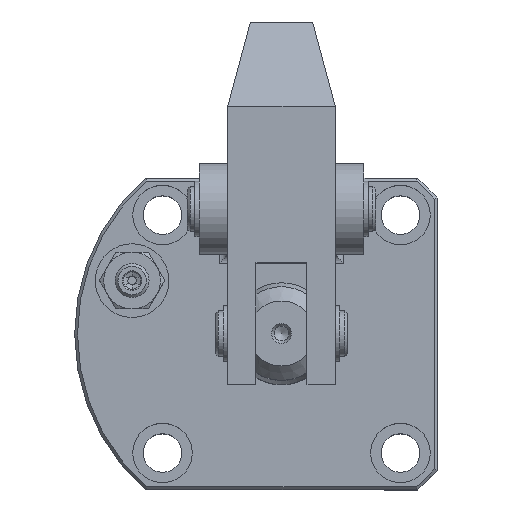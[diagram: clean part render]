
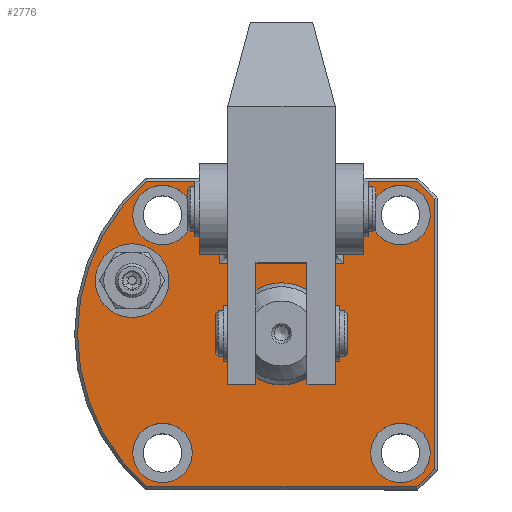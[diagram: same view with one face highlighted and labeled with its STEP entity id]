
A CAD part, top view. The second image highlights one B-rep face of the part: STEP entity #2776.
In plain terms, the highlighted planar face has unit normal (0, 0, 1).
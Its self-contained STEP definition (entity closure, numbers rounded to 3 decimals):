
#134=CIRCLE('',#3061,36.);
#135=CIRCLE('',#3062,36.);
#136=CIRCLE('',#3063,36.);
#137=CIRCLE('',#3064,6.5);
#138=CIRCLE('',#3065,5.25);
#139=CIRCLE('',#3066,5.25);
#140=CIRCLE('',#3067,9.);
#141=CIRCLE('',#3068,5.25);
#142=CIRCLE('',#3069,5.25);
#355=PLANE('',#3060);
#436=LINE('',#4263,#574);
#468=LINE('',#4337,#606);
#469=LINE('',#4340,#607);
#470=LINE('',#4342,#608);
#471=LINE('',#4344,#609);
#472=LINE('',#4347,#610);
#473=LINE('',#4351,#611);
#574=VECTOR('',#3415,1000.);
#606=VECTOR('',#3471,1000.);
#607=VECTOR('',#3472,1000.);
#608=VECTOR('',#3473,1000.);
#609=VECTOR('',#3474,1000.);
#610=VECTOR('',#3477,1000.);
#611=VECTOR('',#3480,1000.);
#770=ORIENTED_EDGE('',*,*,#1479,.T.);
#771=ORIENTED_EDGE('',*,*,#1480,.T.);
#772=ORIENTED_EDGE('',*,*,#1481,.T.);
#773=ORIENTED_EDGE('',*,*,#1482,.T.);
#774=ORIENTED_EDGE('',*,*,#1444,.T.);
#775=ORIENTED_EDGE('',*,*,#1483,.T.);
#776=ORIENTED_EDGE('',*,*,#1484,.T.);
#777=ORIENTED_EDGE('',*,*,#1485,.T.);
#778=ORIENTED_EDGE('',*,*,#1486,.T.);
#779=ORIENTED_EDGE('',*,*,#1487,.T.);
#780=ORIENTED_EDGE('',*,*,#1488,.F.);
#781=ORIENTED_EDGE('',*,*,#1489,.T.);
#782=ORIENTED_EDGE('',*,*,#1490,.T.);
#783=ORIENTED_EDGE('',*,*,#1491,.T.);
#784=ORIENTED_EDGE('',*,*,#1492,.T.);
#785=ORIENTED_EDGE('',*,*,#1493,.T.);
#1444=EDGE_CURVE('',#1808,#1809,#436,.T.);
#1479=EDGE_CURVE('',#1834,#1835,#468,.T.);
#1480=EDGE_CURVE('',#1835,#1836,#469,.F.);
#1481=EDGE_CURVE('',#1836,#1837,#470,.F.);
#1482=EDGE_CURVE('',#1837,#1808,#471,.F.);
#1483=EDGE_CURVE('',#1809,#1838,#134,.T.);
#1484=EDGE_CURVE('',#1838,#1839,#472,.T.);
#1485=EDGE_CURVE('',#1839,#1840,#135,.T.);
#1486=EDGE_CURVE('',#1840,#1841,#473,.T.);
#1487=EDGE_CURVE('',#1841,#1834,#136,.T.);
#1488=EDGE_CURVE('',#1842,#1842,#137,.T.);
#1489=EDGE_CURVE('',#1843,#1843,#138,.T.);
#1490=EDGE_CURVE('',#1844,#1844,#139,.T.);
#1491=EDGE_CURVE('',#1845,#1845,#140,.T.);
#1492=EDGE_CURVE('',#1846,#1846,#141,.T.);
#1493=EDGE_CURVE('',#1847,#1847,#142,.T.);
#1808=VERTEX_POINT('',#4264);
#1809=VERTEX_POINT('',#4265);
#1834=VERTEX_POINT('',#4338);
#1835=VERTEX_POINT('',#4339);
#1836=VERTEX_POINT('',#4341);
#1837=VERTEX_POINT('',#4343);
#1838=VERTEX_POINT('',#4346);
#1839=VERTEX_POINT('',#4348);
#1840=VERTEX_POINT('',#4350);
#1841=VERTEX_POINT('',#4352);
#1842=VERTEX_POINT('',#4355);
#1843=VERTEX_POINT('',#4357);
#1844=VERTEX_POINT('',#4359);
#1845=VERTEX_POINT('',#4361);
#1846=VERTEX_POINT('',#4363);
#1847=VERTEX_POINT('',#4365);
#2096=EDGE_LOOP('',(#770,#771,#772,#773,#774,#775,#776,#777,#778,#779));
#2097=EDGE_LOOP('',(#780));
#2098=EDGE_LOOP('',(#781));
#2099=EDGE_LOOP('',(#782));
#2100=EDGE_LOOP('',(#783));
#2101=EDGE_LOOP('',(#784));
#2102=EDGE_LOOP('',(#785));
#2404=FACE_BOUND('',#2096,.T.);
#2405=FACE_BOUND('',#2097,.T.);
#2406=FACE_BOUND('',#2098,.T.);
#2407=FACE_BOUND('',#2099,.T.);
#2408=FACE_BOUND('',#2100,.T.);
#2409=FACE_BOUND('',#2101,.T.);
#2410=FACE_BOUND('',#2102,.T.);
#2776=ADVANCED_FACE('',(#2404,#2405,#2406,#2407,#2408,#2409,#2410),#355,
 .T.);
#3060=AXIS2_PLACEMENT_3D('',#4336,#3469,#3470);
#3061=AXIS2_PLACEMENT_3D('',#4345,#3475,#3476);
#3062=AXIS2_PLACEMENT_3D('',#4349,#3478,#3479);
#3063=AXIS2_PLACEMENT_3D('',#4353,#3481,#3482);
#3064=AXIS2_PLACEMENT_3D('',#4354,#3483,#3484);
#3065=AXIS2_PLACEMENT_3D('',#4356,#3485,#3486);
#3066=AXIS2_PLACEMENT_3D('',#4358,#3487,#3488);
#3067=AXIS2_PLACEMENT_3D('',#4360,#3489,#3490);
#3068=AXIS2_PLACEMENT_3D('',#4362,#3491,#3492);
#3069=AXIS2_PLACEMENT_3D('',#4364,#3493,#3494);
#3415=DIRECTION('',(-1.,0.,0.));
#3469=DIRECTION('',(0.,0.,1.));
#3470=DIRECTION('',(0.,-1.,0.));
#3471=DIRECTION('',(-1.,0.,0.));
#3472=DIRECTION('',(0.,1.,0.));
#3473=DIRECTION('',(1.,0.,0.));
#3474=DIRECTION('',(0.,-1.,0.));
#3475=DIRECTION('',(0.,0.,1.));
#3476=DIRECTION('',(0.,-1.,0.));
#3477=DIRECTION('',(1.,0.,0.));
#3478=DIRECTION('',(0.,0.,1.));
#3479=DIRECTION('',(0.,-1.,0.));
#3480=DIRECTION('',(0.,1.,0.));
#3481=DIRECTION('',(0.,0.,1.));
#3482=DIRECTION('',(0.,-1.,0.));
#3483=DIRECTION('',(0.,0.,1.));
#3484=DIRECTION('',(1.,0.,0.));
#3485=DIRECTION('',(0.,0.,-1.));
#3486=DIRECTION('',(0.,-1.,0.));
#3487=DIRECTION('',(0.,0.,-1.));
#3488=DIRECTION('',(0.,-1.,0.));
#3489=DIRECTION('',(0.,0.,-1.));
#3490=DIRECTION('',(0.,-1.,0.));
#3491=DIRECTION('',(0.,0.,-1.));
#3492=DIRECTION('',(0.,-1.,0.));
#3493=DIRECTION('',(0.,0.,-1.));
#3494=DIRECTION('',(0.,-1.,0.));
#4263=CARTESIAN_POINT('',(-9.25,56.,15.));
#4264=CARTESIAN_POINT('',(-20.25,56.,15.));
#4265=CARTESIAN_POINT('',(-33.062,56.,15.));
#4336=CARTESIAN_POINT('',(-9.25,29.,15.));
#4337=CARTESIAN_POINT('',(-9.25,56.,15.));
#4338=CARTESIAN_POINT('',(14.562,56.,15.));
#4339=CARTESIAN_POINT('',(1.75,56.,15.));
#4340=CARTESIAN_POINT('',(1.75,43.,15.));
#4341=CARTESIAN_POINT('',(1.75,41.5,15.));
#4342=CARTESIAN_POINT('',(-9.25,41.5,15.));
#4343=CARTESIAN_POINT('',(-20.25,41.5,15.));
#4344=CARTESIAN_POINT('',(-20.25,29.,15.));
#4345=CARTESIAN_POINT('',(-9.25,29.,15.));
#4346=CARTESIAN_POINT('',(-33.062,2.,15.));
#4347=CARTESIAN_POINT('',(-9.25,2.,15.));
#4348=CARTESIAN_POINT('',(14.562,2.,15.));
#4349=CARTESIAN_POINT('',(-9.25,29.,15.));
#4350=CARTESIAN_POINT('',(17.75,5.188,15.));
#4351=CARTESIAN_POINT('',(17.75,29.,15.));
#4352=CARTESIAN_POINT('',(17.75,52.812,15.));
#4353=CARTESIAN_POINT('',(-9.25,29.,15.));
#4354=CARTESIAN_POINT('',(-35.62,38.42,15.));
#4355=CARTESIAN_POINT('',(-29.12,38.42,15.));
#4356=CARTESIAN_POINT('',(11.75,50.,15.));
#4357=CARTESIAN_POINT('',(11.75,44.75,15.));
#4358=CARTESIAN_POINT('',(11.75,8.,15.));
#4359=CARTESIAN_POINT('',(11.75,2.75,15.));
#4360=CARTESIAN_POINT('',(-9.25,29.,15.));
#4361=CARTESIAN_POINT('',(-9.25,20.,15.));
#4362=CARTESIAN_POINT('',(-30.25,8.,15.));
#4363=CARTESIAN_POINT('',(-30.25,2.75,15.));
#4364=CARTESIAN_POINT('',(-30.25,50.,15.));
#4365=CARTESIAN_POINT('',(-30.25,44.75,15.));
